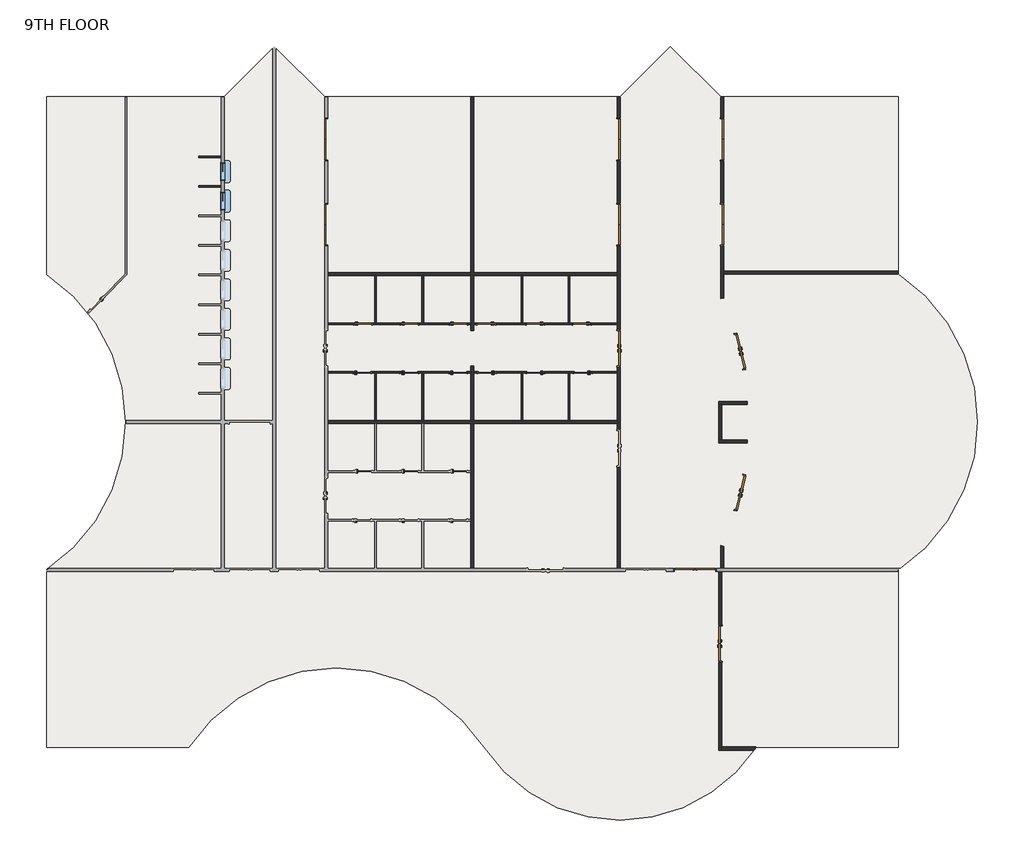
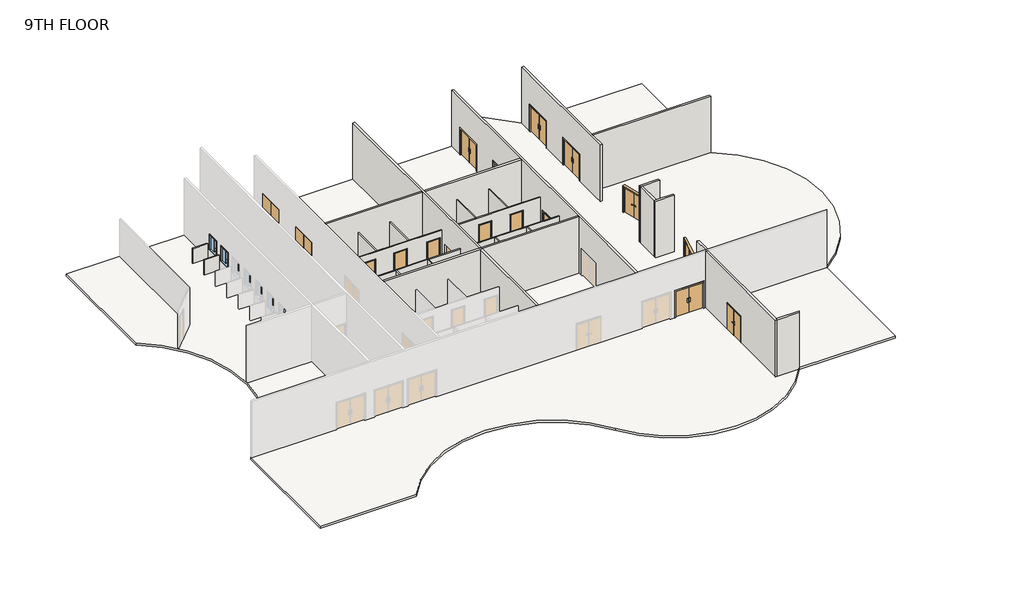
# One storey, part 2 of 2: 26 walls, 23 doors, 2 windows, 1 slab.
"""IFC4 building model written with IfcOpenShell, lengths in millimetres."""

from ifc_helpers import new_model, si_unit, point, frame, frame_2d, origin, place, context, project, spatial, polyline, circle_curve, trimmed, segment, composite_curve, outline, extrude, faceted_brep, transform, mapped, element, save
from ifc_brep_helpers import plane_surface, cylinder_surface, advanced_brep
from components import door_2f250f70, door_df8e76c5, door_0b13e4d9, door_b3a27a16, door_979b1b8c, door_f8b587be, pass_thru_4x3_19d81059

model = new_model("IFC4")

# Units and contexts
model_context = context("Model", 3, world=origin())
ifc_project = project(units=[si_unit("LENGTHUNIT", "METRE", prefix="MILLI")], contexts=[model_context])

# Site, building, storey
site = spatial("IfcSite", under=ifc_project)
building = spatial("IfcBuilding", under=site)
storey = spatial("IfcBuildingStorey", under=building, Name="9TH FLOOR", Elevation=41148.0)

# Doors
placement = place(None, origin())
door_shape = door_2f250f70(model_context)
element("IfcDoor", 1, ObjectType="Door-Passage-Double-Flush : 72\" x 82\"", at=placement, inside=storey, context=model_context, shape_type="MappedRepresentation", body=[
    mapped(door_shape, transform((35885.2621514, 20561.4429091, 41148.0), x_axis=(0.23975975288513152, -0.9708322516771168, 0.0), y_axis=(0.9708322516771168, 0.23975975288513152, 0.0), z_axis=(0.0, 0.0, 1.0))),
])
element("IfcDoor", 2, ObjectType="Door-Passage-Double-Flush : 72\" x 82\"", at=placement, inside=storey, context=model_context, shape_type="MappedRepresentation", body=[
    mapped(door_shape, transform((34887.5089577, 5494.3375, 41148.0), x_axis=(0.0, 1.0, 0.0), y_axis=(-1.0, 0.0, 0.0), z_axis=(0.0, 0.0, 1.0))),
])
door_2_shape = door_df8e76c5(model_context)
element("IfcDoor", 3, ObjectType="Door-Passage-Double-Flush : 72\" x 82\"", at=placement, inside=storey, context=model_context, shape_type="MappedRepresentation", body=[
    mapped(door_2_shape, transform((35886.7385063, 13277.3403388, 41148.0), x_axis=(0.23936619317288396, 0.9709293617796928, 0.0), y_axis=(-0.9709293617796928, 0.23936619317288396, 0.0), z_axis=(0.0, 0.0, 1.0))),
])
element("IfcDoor", 4, ObjectType="Door-Passage-Double-Flush : 72\" x 82\"", at=placement, inside=storey, context=model_context, shape_type="MappedRepresentation", body=[
    mapped(door_2_shape, transform((29628.0650257, 20729.575, 41148.0), x_axis=(0.0, 1.0, 0.0), y_axis=(-1.0, 0.0, 0.0), z_axis=(0.0, 0.0, 1.0))),
])
door_3_shape = door_0b13e4d9(model_context)
element("IfcDoor", 5, ObjectType="Door-Passage-Double-Flush-Dbl_Acting : 84\" x 84\"", at=placement, inside=storey, context=model_context, shape_type="MappedRepresentation", body=[
    mapped(door_3_shape, transform((33564.0300515, 9293.225, 41148.0), x_axis=(-1.0, 0.0, 0.0), y_axis=(0.0, -1.0, 0.0), z_axis=(0.0, 0.0, 1.0))),
])
element("IfcDoor", 6, ObjectType="Door-Passage-Double-Flush-Dbl_Acting : 84\" x 84\"", at=placement, inside=storey, context=model_context, shape_type="MappedRepresentation", body=[
    mapped(door_3_shape, transform((29628.0650257, 31499.175, 41148.0), x_axis=(0.0, 1.0, 0.0), y_axis=(-1.0, 0.0, 0.0), z_axis=(0.0, 0.0, 1.0))),
])
element("IfcDoor", 7, ObjectType="Door-Passage-Double-Flush-Dbl_Acting : 84\" x 84\"", at=placement, inside=storey, context=model_context, shape_type="MappedRepresentation", body=[
    mapped(door_3_shape, transform((29628.0650257, 27101.8, 41148.0), x_axis=(0.0, 1.0, 0.0), y_axis=(-1.0, 0.0, 0.0), z_axis=(0.0, 0.0, 1.0))),
])
door_4_shape = door_b3a27a16(model_context)
element("IfcDoor", 8, ObjectType="Door-Passage-Double-Flush-Dbl_Acting : 84\" x 84\"", at=placement, inside=storey, context=model_context, shape_type="MappedRepresentation", body=[
    mapped(door_4_shape, transform((14556.3400257, 31499.175, 41148.0), x_axis=(0.0, 1.0, 0.0), y_axis=(-1.0, 0.0, 0.0), z_axis=(0.0, 0.0, 1.0))),
])
element("IfcDoor", 9, ObjectType="Door-Passage-Double-Flush-Dbl_Acting : 84\" x 84\"", at=placement, inside=storey, context=model_context, shape_type="MappedRepresentation", body=[
    mapped(door_4_shape, transform((14556.3400257, 27101.8, 41148.0), x_axis=(0.0, 1.0, 0.0), y_axis=(-1.0, 0.0, 0.0), z_axis=(0.0, 0.0, 1.0))),
])
element("IfcDoor", 10, ObjectType="Door-Passage-Double-Flush-Dbl_Acting : 84\" x 84\"", at=placement, inside=storey, context=model_context, shape_type="MappedRepresentation", body=[
    mapped(door_4_shape, transform((34956.2675515, 31499.175, 41148.0), x_axis=(0.0, -1.0, 0.0), y_axis=(1.0, 0.0, 0.0), z_axis=(0.0, 0.0, 1.0))),
])
element("IfcDoor", 11, ObjectType="Door-Passage-Double-Flush-Dbl_Acting : 84\" x 84\"", at=placement, inside=storey, context=model_context, shape_type="MappedRepresentation", body=[
    mapped(door_4_shape, transform((34956.2675515, 27101.8, 41148.0), x_axis=(0.0, -1.0, 0.0), y_axis=(1.0, 0.0, 0.0), z_axis=(0.0, 0.0, 1.0))),
])
door_5_shape = door_979b1b8c(model_context)
element("IfcDoor", 12, ObjectType="Door-Passage-Single-Flush : 36\" x 96\"", at=placement, inside=storey, context=model_context, shape_type="MappedRepresentation", body=[
    mapped(door_5_shape, transform((16456.5775257, 21977.35, 41148.0), x_axis=(1.0, 0.0, 0.0), y_axis=(0.0, 1.0, 0.0), z_axis=(0.0, 0.0, 1.0))),
])
element("IfcDoor", 13, ObjectType="Door-Passage-Single-Flush : 36\" x 96\"", at=placement, inside=storey, context=model_context, shape_type="MappedRepresentation", body=[
    mapped(door_5_shape, transform((18855.2900257, 21977.35, 41148.0), x_axis=(1.0, 0.0, 0.0), y_axis=(0.0, 1.0, 0.0), z_axis=(0.0, 0.0, 1.0))),
])
element("IfcDoor", 14, ObjectType="Door-Passage-Single-Flush : 36\" x 96\"", at=placement, inside=storey, context=model_context, shape_type="MappedRepresentation", body=[
    mapped(door_5_shape, transform((21373.0650257, 21977.35, 41148.0), x_axis=(1.0, 0.0, 0.0), y_axis=(0.0, 1.0, 0.0), z_axis=(0.0, 0.0, 1.0))),
])
element("IfcDoor", 15, ObjectType="Door-Passage-Single-Flush : 36\" x 96\"", at=placement, inside=storey, context=model_context, shape_type="MappedRepresentation", body=[
    mapped(door_5_shape, transform((27778.6275257, 19481.8, 41148.0), x_axis=(-1.0, 0.0, 0.0), y_axis=(0.0, -1.0, 0.0), z_axis=(0.0, 0.0, 1.0))),
])
element("IfcDoor", 16, ObjectType="Door-Passage-Single-Flush : 36\" x 96\"", at=placement, inside=storey, context=model_context, shape_type="MappedRepresentation", body=[
    mapped(door_5_shape, transform((25348.1650257, 19481.8, 41148.0), x_axis=(-1.0, 0.0, 0.0), y_axis=(0.0, -1.0, 0.0), z_axis=(0.0, 0.0, 1.0))),
])
element("IfcDoor", 17, ObjectType="Door-Passage-Single-Flush : 36\" x 96\"", at=placement, inside=storey, context=model_context, shape_type="MappedRepresentation", body=[
    mapped(door_5_shape, transform((22830.3900257, 19481.8, 41148.0), x_axis=(-1.0, 0.0, 0.0), y_axis=(0.0, -1.0, 0.0), z_axis=(0.0, 0.0, 1.0))),
])
door_6_shape = door_f8b587be(model_context)
element("IfcDoor", 18, ObjectType="Door-Passage-Single-Flush : 36\" x 96\"", at=placement, inside=storey, context=model_context, shape_type="MappedRepresentation", body=[
    mapped(door_6_shape, transform((16405.7775257, 19481.8, 41148.0), x_axis=(1.0, 0.0, 0.0), y_axis=(0.0, 1.0, 0.0), z_axis=(0.0, 0.0, 1.0))),
])
element("IfcDoor", 19, ObjectType="Door-Passage-Single-Flush : 36\" x 96\"", at=placement, inside=storey, context=model_context, shape_type="MappedRepresentation", body=[
    mapped(door_6_shape, transform((18836.2400257, 19481.8, 41148.0), x_axis=(1.0, 0.0, 0.0), y_axis=(0.0, 1.0, 0.0), z_axis=(0.0, 0.0, 1.0))),
])
element("IfcDoor", 20, ObjectType="Door-Passage-Single-Flush : 36\" x 96\"", at=placement, inside=storey, context=model_context, shape_type="MappedRepresentation", body=[
    mapped(door_6_shape, transform((21354.0150257, 19481.8, 41148.0), x_axis=(1.0, 0.0, 0.0), y_axis=(0.0, 1.0, 0.0), z_axis=(0.0, 0.0, 1.0))),
])
element("IfcDoor", 21, ObjectType="Door-Passage-Single-Flush : 36\" x 96\"", at=placement, inside=storey, context=model_context, shape_type="MappedRepresentation", body=[
    mapped(door_6_shape, transform((27727.8275257, 21977.35, 41148.0), x_axis=(-1.0, 0.0, 0.0), y_axis=(0.0, -1.0, 0.0), z_axis=(0.0, 0.0, 1.0))),
])
element("IfcDoor", 22, ObjectType="Door-Passage-Single-Flush : 36\" x 96\"", at=placement, inside=storey, context=model_context, shape_type="MappedRepresentation", body=[
    mapped(door_6_shape, transform((25329.1150257, 21977.35, 41148.0), x_axis=(-1.0, 0.0, 0.0), y_axis=(0.0, -1.0, 0.0), z_axis=(0.0, 0.0, 1.0))),
])
element("IfcDoor", 23, ObjectType="Door-Passage-Single-Flush : 36\" x 96\"", at=placement, inside=storey, context=model_context, shape_type="MappedRepresentation", body=[
    mapped(door_6_shape, transform((22811.3400257, 21977.35, 41148.0), x_axis=(-1.0, 0.0, 0.0), y_axis=(0.0, -1.0, 0.0), z_axis=(0.0, 0.0, 1.0))),
])

# Slab
element("IfcSlab", 24, ObjectType="ARCHITECTURAL FINISH FLOOR", at=placement, inside=storey, context=model_context, shape_type="SweptSolid", body=[
    extrude(outline(composite_curve([segment(polyline([(9294.3144878, 33696.275), (11885.8887629, 36287.8492751), (14477.463038, 33696.275), (29706.9420135, 33696.275), (32298.5162886, 36287.8492751), (34890.0905637, 33696.275), (44041.5300515, 33696.275), (44041.5300515, 24546.3877275)]), True, "CONTINUOUS"), segment(trimmed(circle_curve(frame_2d((38974.293871, 16919.575)), 9156.7), [point((44041.5300515, 24546.3877275))], [point((44041.5300515, 9292.7622725))], False, "CARTESIAN"), True, "CONTINUOUS"), segment(polyline([(44041.5300515, 9292.7622725), (44041.5300515, 142.875), (36720.4425102, 142.875)]), True, "CONTINUOUS"), segment(trimmed(circle_curve(frame_2d((29712.2025257, 4799.7966199)), 8414.4130309), [point((36720.4425102, 142.875))], [point((22700.1916667, 148.5548109))], False, "CARTESIAN"), True, "CONTINUOUS"), segment(trimmed(circle_curve(frame_2d((15090.775, -4898.9611805)), 9131.3), [point((22700.1916667, 148.5548109))], [point((7477.593824, 142.875))], True, "CARTESIAN"), True, "CONTINUOUS"), segment(polyline([(7477.593824, 142.875), (142.875, 142.875), (142.875, 9306.393824)]), True, "CONTINUOUS"), segment(trimmed(circle_curve(frame_2d((-4898.9611805, 16919.575)), 9131.3), [point((142.875, 9306.393824))], [point((142.875, 24532.756176))], True, "CARTESIAN"), True, "CONTINUOUS"), segment(polyline([(142.875, 24532.756176), (142.875, 33696.275), (9294.3144878, 33696.275)]), True, "CONTINUOUS")], self_intersect=False)), frame((0.0, 0.0, 40995.6), z_axis=(0.0, 0.0, 1.0), x_axis=(1.0, 0.0, 0.0)), (0.0, 0.0, 1.0), 171.45),
])

# Walls
element("IfcWall", 25, ObjectType="SYR_INT_ONE_HOUR", at=placement, inside=storey, context=model_context, shape_type="SweptSolid", body=[
    extrude(outline(polyline([(17066.1775257, 22023.3875), (17066.1775257, 24461.7875), (17145.5525257, 24461.7875), (17145.5525257, 22023.3875), (17066.1775257, 22023.3875)])), frame((0.0, 0.0, 41148.0), z_axis=(0.0, 0.0, 1.0), x_axis=(1.0, 0.0, 0.0)), (0.0, 0.0, 1.0), 3048.0),
])
element("IfcWall", 26, ObjectType="SYR_INT_ONE_HOUR", at=placement, inside=storey, context=model_context, shape_type="SweptSolid", body=[
    extrude(outline(polyline([(19576.0150257, 19435.7625), (19576.0150257, 16997.3625), (19496.6400257, 16997.3625), (19496.6400257, 19435.7625), (19576.0150257, 19435.7625)])), frame((0.0, 0.0, 41148.0), z_axis=(0.0, 0.0, 1.0), x_axis=(1.0, 0.0, 0.0)), (0.0, 0.0, 1.0), 3048.0),
])
element("IfcWall", 27, ObjectType="SYR_INT_ONE_HOUR", at=placement, inside=storey, context=model_context, shape_type="Brep", body=[
    faceted_brep([(14627.7775257, 22023.3875, 44196.0), (17066.1775257, 22023.3875, 44196.0), (17145.5525257, 22023.3875, 44196.0), (19496.6400257, 22023.3875, 44196.0), (19576.0150257, 22023.3875, 44196.0), (22014.4150257, 22023.3875, 44196.0), (22014.4150257, 22023.3875, 41148.0), (21862.0150257, 22023.3875, 41148.0), (21862.0150257, 22023.3875, 43618.15), (20884.1150257, 22023.3875, 43618.15), (20884.1150257, 22023.3875, 41148.0), (19576.0150257, 22023.3875, 41148.0), (19496.6400257, 22023.3875, 41148.0), (19344.2400257, 22023.3875, 41148.0), (19344.2400257, 22023.3875, 43618.15), (18366.3400257, 22023.3875, 43618.15), (18366.3400257, 22023.3875, 41148.0), (17145.5525257, 22023.3875, 41148.0), (17066.1775257, 22023.3875, 41148.0), (16945.5275257, 22023.3875, 41148.0), (16945.5275257, 22023.3875, 43618.15), (15967.6275257, 22023.3875, 43618.15), (15967.6275257, 22023.3875, 41148.0), (14627.7775257, 22023.3875, 41148.0), (22014.4150257, 21944.0125, 44196.0), (14627.7775257, 21944.0125, 44196.0), (14627.7775257, 21944.0125, 41148.0), (15967.6275257, 21944.0125, 41148.0), (15967.6275257, 21944.0125, 43618.15), (16945.5275257, 21944.0125, 43618.15), (16945.5275257, 21944.0125, 41148.0), (18366.3400257, 21944.0125, 41148.0), (18366.3400257, 21944.0125, 43618.15), (19344.2400257, 21944.0125, 43618.15), (19344.2400257, 21944.0125, 41148.0), (20884.1150257, 21944.0125, 41148.0), (20884.1150257, 21944.0125, 43618.15), (21862.0150257, 21944.0125, 43618.15), (21862.0150257, 21944.0125, 41148.0), (22014.4150257, 21944.0125, 41148.0)], [[[0, 1, 2, 3, 4, 5, 6, 7, 8, 9, 10, 11, 12, 13, 14, 15, 16, 17, 18, 19, 20, 21, 22, 23]], [[24, 25, 26, 27, 28, 29, 30, 31, 32, 33, 34, 35, 36, 37, 38, 39]], [[23, 22, 27, 26]], [[30, 19, 18, 17, 16, 31]], [[34, 13, 12, 11, 10, 35]], [[6, 39, 38, 7]], [[5, 4, 3, 2, 1, 0, 25, 24]], [[29, 20, 19, 30]], [[20, 29, 28, 21]], [[21, 28, 27, 22]], [[14, 13, 34, 33]], [[15, 14, 33, 32]], [[16, 15, 32, 31]], [[37, 8, 7, 38]], [[8, 37, 36, 9]], [[9, 36, 35, 10]], [[0, 23, 26, 25]], [[6, 5, 24, 39]]]),
])
element("IfcWall", 28, ObjectType="SYR_INT_ONE_HOUR", at=placement, inside=storey, context=model_context, shape_type="Brep", body=[
    faceted_brep([(14627.7775257, 19515.1375, 44196.0), (22014.4150257, 19515.1375, 44196.0), (22014.4150257, 19515.1375, 41148.0), (21842.9650257, 19515.1375, 41148.0), (21842.9650257, 19515.1375, 43618.15), (20865.0650257, 19515.1375, 43618.15), (20865.0650257, 19515.1375, 41148.0), (19325.1900257, 19515.1375, 41148.0), (19325.1900257, 19515.1375, 43618.15), (18347.2900257, 19515.1375, 43618.15), (18347.2900257, 19515.1375, 41148.0), (16894.7275257, 19515.1375, 41148.0), (16894.7275257, 19515.1375, 43618.15), (15916.8275257, 19515.1375, 43618.15), (15916.8275257, 19515.1375, 41148.0), (14627.7775257, 19515.1375, 41148.0), (22014.4150257, 19435.7625, 44196.0), (19576.0150257, 19435.7625, 44196.0), (19496.6400257, 19435.7625, 44196.0), (17145.5525257, 19435.7625, 44196.0), (17066.1775257, 19435.7625, 44196.0), (14627.7775257, 19435.7625, 44196.0), (14627.7775257, 19435.7625, 41148.0), (15916.8275257, 19435.7625, 41148.0), (15916.8275257, 19435.7625, 43618.15), (16894.7275257, 19435.7625, 43618.15), (16894.7275257, 19435.7625, 41148.0), (17066.1775257, 19435.7625, 41148.0), (17145.5525257, 19435.7625, 41148.0), (18347.2900257, 19435.7625, 41148.0), (18347.2900257, 19435.7625, 43618.15), (19325.1900257, 19435.7625, 43618.15), (19325.1900257, 19435.7625, 41148.0), (19496.6400257, 19435.7625, 41148.0), (19576.0150257, 19435.7625, 41148.0), (20865.0650257, 19435.7625, 41148.0), (20865.0650257, 19435.7625, 43618.15), (21842.9650257, 19435.7625, 43618.15), (21842.9650257, 19435.7625, 41148.0), (22014.4150257, 19435.7625, 41148.0)], [[[0, 1, 2, 3, 4, 5, 6, 7, 8, 9, 10, 11, 12, 13, 14, 15]], [[16, 17, 18, 19, 20, 21, 22, 23, 24, 25, 26, 27, 28, 29, 30, 31, 32, 33, 34, 35, 36, 37, 38, 39]], [[15, 14, 23, 22]], [[26, 11, 10, 29, 28, 27]], [[32, 7, 6, 35, 34, 33]], [[2, 39, 38, 3]], [[1, 0, 21, 20, 19, 18, 17, 16]], [[25, 12, 11, 26]], [[12, 25, 24, 13]], [[13, 24, 23, 14]], [[31, 8, 7, 32]], [[8, 31, 30, 9]], [[9, 30, 29, 10]], [[37, 4, 3, 38]], [[4, 37, 36, 5]], [[5, 36, 35, 6]], [[0, 15, 22, 21]], [[2, 1, 16, 39]]]),
])
element("IfcWall", 29, ObjectType="SYR_INT_ONE_HOUR", at=placement, inside=storey, context=model_context, shape_type="SweptSolid", body=[
    extrude(outline(polyline([(17066.1775257, 16997.3625), (17066.1775257, 19435.7625), (17145.5525257, 19435.7625), (17145.5525257, 16997.3625), (17066.1775257, 16997.3625)])), frame((0.0, 0.0, 41148.0), z_axis=(0.0, 0.0, 1.0), x_axis=(1.0, 0.0, 0.0)), (0.0, 0.0, 1.0), 3048.0),
])
element("IfcWall", 30, ObjectType="SYR_INT_ONE_HOUR", at=placement, inside=storey, context=model_context, shape_type="SweptSolid", body=[
    extrude(outline(polyline([(19576.0150257, 24461.7875), (19576.0150257, 22023.3875), (19496.6400257, 22023.3875), (19496.6400257, 24461.7875), (19576.0150257, 24461.7875)])), frame((0.0, 0.0, 41148.0), z_axis=(0.0, 0.0, 1.0), x_axis=(1.0, 0.0, 0.0)), (0.0, 0.0, 1.0), 3048.0),
])
element("IfcWall", 31, ObjectType="SYR_INT_ONE_HOUR", at=placement, inside=storey, context=model_context, shape_type="SweptSolid", body=[
    extrude(outline(polyline([(7979.2710938, 29111.575), (9144.0, 29111.575), (9144.0, 29032.2), (7979.2710938, 29032.2), (7979.2710938, 29111.575)])), frame((0.0, 0.0, 41148.0), z_axis=(0.0, 0.0, 1.0), x_axis=(1.0, 0.0, 0.0)), (0.0, 0.0, 1.0), 1219.2),
])
element("IfcWall", 32, ObjectType="SYR_INT_ONE_HOUR", at=placement, inside=storey, context=model_context, shape_type="SweptSolid", body=[
    extrude(outline(polyline([(7979.2710938, 30635.575), (9144.0, 30635.575), (9144.0, 30556.2), (7979.2710938, 30556.2), (7979.2710938, 30635.575)])), frame((0.0, 0.0, 41148.0), z_axis=(0.0, 0.0, 1.0), x_axis=(1.0, 0.0, 0.0)), (0.0, 0.0, 1.0), 1219.2),
])
element("IfcWall", 33, ObjectType="SYR_INT_ONE_HOUR", at=placement, inside=storey, context=model_context, shape_type="SweptSolid", body=[
    extrude(outline(polyline([(27038.8525257, 22023.3875), (27038.8525257, 24461.7875), (27118.2275257, 24461.7875), (27118.2275257, 22023.3875), (27038.8525257, 22023.3875)])), frame((0.0, 0.0, 41148.0), z_axis=(0.0, 0.0, 1.0), x_axis=(1.0, 0.0, 0.0)), (0.0, 0.0, 1.0), 3048.0),
])
element("IfcWall", 34, ObjectType="SYR_INT_ONE_HOUR", at=placement, inside=storey, context=model_context, shape_type="SweptSolid", body=[
    extrude(outline(polyline([(24687.7650257, 19435.7625), (24687.7650257, 16997.3625), (24608.3900257, 16997.3625), (24608.3900257, 19435.7625), (24687.7650257, 19435.7625)])), frame((0.0, 0.0, 41148.0), z_axis=(0.0, 0.0, 1.0), x_axis=(1.0, 0.0, 0.0)), (0.0, 0.0, 1.0), 3048.0),
])
element("IfcWall", 35, ObjectType="SYR_INT_ONE_HOUR", at=placement, inside=storey, context=model_context, shape_type="Brep", body=[
    faceted_brep([(29556.6275257, 21944.0125, 44196.0), (22169.9900257, 21944.0125, 44196.0), (22169.9900257, 21944.0125, 41148.0), (22322.3900257, 21944.0125, 41148.0), (22322.3900257, 21944.0125, 43618.15), (23300.2900257, 21944.0125, 43618.15), (23300.2900257, 21944.0125, 41148.0), (24840.1650257, 21944.0125, 41148.0), (24840.1650257, 21944.0125, 43618.15), (25818.0650257, 21944.0125, 43618.15), (25818.0650257, 21944.0125, 41148.0), (27238.8775257, 21944.0125, 41148.0), (27238.8775257, 21944.0125, 43618.15), (28216.7775257, 21944.0125, 43618.15), (28216.7775257, 21944.0125, 41148.0), (29556.6275257, 21944.0125, 41148.0), (22169.9900257, 22023.3875, 44196.0), (24608.3900257, 22023.3875, 44196.0), (24687.7650257, 22023.3875, 44196.0), (27038.8525257, 22023.3875, 44196.0), (27118.2275257, 22023.3875, 44196.0), (29556.6275257, 22023.3875, 44196.0), (29556.6275257, 22023.3875, 41148.0), (28216.7775257, 22023.3875, 41148.0), (28216.7775257, 22023.3875, 43618.15), (27238.8775257, 22023.3875, 43618.15), (27238.8775257, 22023.3875, 41148.0), (27118.2275257, 22023.3875, 41148.0), (27038.8525257, 22023.3875, 41148.0), (25818.0650257, 22023.3875, 41148.0), (25818.0650257, 22023.3875, 43618.15), (24840.1650257, 22023.3875, 43618.15), (24840.1650257, 22023.3875, 41148.0), (24687.7650257, 22023.3875, 41148.0), (24608.3900257, 22023.3875, 41148.0), (23300.2900257, 22023.3875, 41148.0), (23300.2900257, 22023.3875, 43618.15), (22322.3900257, 22023.3875, 43618.15), (22322.3900257, 22023.3875, 41148.0), (22169.9900257, 22023.3875, 41148.0)], [[[0, 1, 2, 3, 4, 5, 6, 7, 8, 9, 10, 11, 12, 13, 14, 15]], [[16, 17, 18, 19, 20, 21, 22, 23, 24, 25, 26, 27, 28, 29, 30, 31, 32, 33, 34, 35, 36, 37, 38, 39]], [[15, 14, 23, 22]], [[26, 11, 10, 29, 28, 27]], [[32, 7, 6, 35, 34, 33]], [[2, 39, 38, 3]], [[1, 0, 21, 20, 19, 18, 17, 16]], [[25, 12, 11, 26]], [[12, 25, 24, 13]], [[13, 24, 23, 14]], [[8, 7, 32, 31]], [[9, 8, 31, 30]], [[10, 9, 30, 29]], [[37, 4, 3, 38]], [[4, 37, 36, 5]], [[5, 36, 35, 6]], [[0, 15, 22, 21]], [[2, 1, 16, 39]]]),
])
element("IfcWall", 36, ObjectType="SYR_INT_ONE_HOUR", at=placement, inside=storey, context=model_context, shape_type="Brep", body=[
    faceted_brep([(29556.6275257, 19435.7625, 44196.0), (27118.2275257, 19435.7625, 44196.0), (27038.8525257, 19435.7625, 44196.0), (24687.7650257, 19435.7625, 44196.0), (24608.3900257, 19435.7625, 44196.0), (22169.9900257, 19435.7625, 44196.0), (22169.9900257, 19435.7625, 41148.0), (22341.4400257, 19435.7625, 41148.0), (22341.4400257, 19435.7625, 43618.15), (23319.3400257, 19435.7625, 43618.15), (23319.3400257, 19435.7625, 41148.0), (24608.3900257, 19435.7625, 41148.0), (24687.7650257, 19435.7625, 41148.0), (24859.2150257, 19435.7625, 41148.0), (24859.2150257, 19435.7625, 43618.15), (25837.1150257, 19435.7625, 43618.15), (25837.1150257, 19435.7625, 41148.0), (27038.8525257, 19435.7625, 41148.0), (27118.2275257, 19435.7625, 41148.0), (27289.6775257, 19435.7625, 41148.0), (27289.6775257, 19435.7625, 43618.15), (28267.5775257, 19435.7625, 43618.15), (28267.5775257, 19435.7625, 41148.0), (29556.6275257, 19435.7625, 41148.0), (22169.9900257, 19515.1375, 44196.0), (29556.6275257, 19515.1375, 44196.0), (29556.6275257, 19515.1375, 41148.0), (28267.5775257, 19515.1375, 41148.0), (28267.5775257, 19515.1375, 43618.15), (27289.6775257, 19515.1375, 43618.15), (27289.6775257, 19515.1375, 41148.0), (25837.1150257, 19515.1375, 41148.0), (25837.1150257, 19515.1375, 43618.15), (24859.2150257, 19515.1375, 43618.15), (24859.2150257, 19515.1375, 41148.0), (23319.3400257, 19515.1375, 41148.0), (23319.3400257, 19515.1375, 43618.15), (22341.4400257, 19515.1375, 43618.15), (22341.4400257, 19515.1375, 41148.0), (22169.9900257, 19515.1375, 41148.0)], [[[0, 1, 2, 3, 4, 5, 6, 7, 8, 9, 10, 11, 12, 13, 14, 15, 16, 17, 18, 19, 20, 21, 22, 23]], [[24, 25, 26, 27, 28, 29, 30, 31, 32, 33, 34, 35, 36, 37, 38, 39]], [[23, 22, 27, 26]], [[30, 19, 18, 17, 16, 31]], [[34, 13, 12, 11, 10, 35]], [[6, 39, 38, 7]], [[5, 4, 3, 2, 1, 0, 25, 24]], [[29, 20, 19, 30]], [[20, 29, 28, 21]], [[21, 28, 27, 22]], [[33, 14, 13, 34]], [[14, 33, 32, 15]], [[15, 32, 31, 16]], [[37, 8, 7, 38]], [[8, 37, 36, 9]], [[9, 36, 35, 10]], [[0, 23, 26, 25]], [[6, 5, 24, 39]]]),
])
element("IfcWall", 37, ObjectType="SYR_INT_ONE_HOUR", at=placement, inside=storey, context=model_context, shape_type="SweptSolid", body=[
    extrude(outline(polyline([(27038.8525257, 16997.3625), (27038.8525257, 19435.7625), (27118.2275257, 19435.7625), (27118.2275257, 16997.3625), (27038.8525257, 16997.3625)])), frame((0.0, 0.0, 41148.0), z_axis=(0.0, 0.0, 1.0), x_axis=(1.0, 0.0, 0.0)), (0.0, 0.0, 1.0), 3048.0),
])
element("IfcWall", 38, ObjectType="SYR_INT_ONE_HOUR", at=placement, inside=storey, context=model_context, shape_type="SweptSolid", body=[
    extrude(outline(polyline([(24687.7650257, 24461.7875), (24687.7650257, 22023.3875), (24608.3900257, 22023.3875), (24608.3900257, 24461.7875), (24687.7650257, 24461.7875)])), frame((0.0, 0.0, 41148.0), z_axis=(0.0, 0.0, 1.0), x_axis=(1.0, 0.0, 0.0)), (0.0, 0.0, 1.0), 3048.0),
])
element("IfcWall", 39, ObjectType="SYR_INT_TWO_HOUR", at=placement, inside=storey, context=model_context, shape_type="Brep", body=[
    faceted_brep([(34803.3714577, 0.0, 45720.0), (34803.3714577, 9221.7875, 45720.0), (34803.3714577, 9221.7875, 41148.0), (34803.3714577, 6459.5375, 41148.0), (34803.3714577, 6459.5375, 43332.4), (34803.3714577, 4529.1375, 43332.4), (34803.3714577, 4529.1375, 41148.0), (34803.3714577, 0.0, 41148.0), (34958.9464577, 9221.7875, 45720.0), (34958.9464577, 155.575, 45720.0), (34958.9464577, 0.0, 45720.0), (34958.9464577, 0.0, 41148.0), (34958.9464577, 155.575, 41148.0), (34958.9464577, 4529.1375, 41148.0), (34958.9464577, 4529.1375, 43332.4), (34958.9464577, 6459.5375, 43332.4), (34958.9464577, 6459.5375, 41148.0), (34958.9464577, 9221.7875, 41148.0)], [[[0, 1, 2, 3, 4, 5, 6, 7]], [[8, 9, 10, 11, 12, 13, 14, 15, 16, 17]], [[2, 17, 16, 3]], [[11, 7, 6, 13, 12]], [[1, 0, 10, 9, 8]], [[2, 1, 8, 17]], [[0, 7, 11, 10]], [[15, 4, 3, 16]], [[4, 15, 14, 5]], [[5, 14, 13, 6]]]),
])
element("IfcWall", 40, ObjectType="SYR_INT_TWO_HOUR", at=placement, inside=storey, context=model_context, shape_type="SweptSolid", body=[
    extrude(outline(composite_curve([segment(polyline([(36607.9065696, 0.0), (34958.9464577, 0.0), (34958.9464577, 155.575), (36713.6300515, 155.575)]), True, "CONTINUOUS"), segment(trimmed(circle_curve(frame_2d((29712.2025257, 4799.7966199)), 8401.7130309), [point((36713.6300515, 155.575))], [point((36607.9065696, 0.0))], False, "CARTESIAN"), True, "CONTINUOUS")], self_intersect=False)), frame((0.0, 0.0, 41148.0), z_axis=(0.0, 0.0, 1.0), x_axis=(1.0, 0.0, 0.0)), (0.0, 0.0, 1.0), 4572.0),
])
element("IfcWall", 41, ObjectType="SYR_INT_TWO_HOUR", at=placement, inside=storey, context=model_context, shape_type="Brep", body=[
    faceted_brep([(29556.6275257, 9377.3625, 45720.0), (29556.6275257, 16841.7875, 45720.0), (29556.6275257, 16997.3625, 45720.0), (29556.6275257, 24461.7875, 45720.0), (29556.6275257, 24617.3625, 45720.0), (29556.6275257, 33683.575, 45720.0), (29556.6275257, 33683.575, 41148.0), (29556.6275257, 32616.775, 41148.0), (29556.6275257, 32616.775, 43383.2), (29556.6275257, 30381.575, 43383.2), (29556.6275257, 30381.575, 41148.0), (29556.6275257, 28219.4, 41148.0), (29556.6275257, 28219.4, 43383.2), (29556.6275257, 25984.2, 43383.2), (29556.6275257, 25984.2, 41148.0), (29556.6275257, 24617.3625, 41148.0), (29556.6275257, 24461.7875, 41148.0), (29556.6275257, 22023.3875, 41148.0), (29556.6275257, 21944.0125, 41148.0), (29556.6275257, 21694.775, 41148.0), (29556.6275257, 21694.775, 43332.4), (29556.6275257, 19764.375, 43332.4), (29556.6275257, 19764.375, 41148.0), (29556.6275257, 19515.1375, 41148.0), (29556.6275257, 19435.7625, 41148.0), (29556.6275257, 16997.3625, 41148.0), (29556.6275257, 16841.7875, 41148.0), (29556.6275257, 16536.9875, 41148.0), (29556.6275257, 16536.9875, 43332.4), (29556.6275257, 14606.5875, 43332.4), (29556.6275257, 14606.5875, 41148.0), (29556.6275257, 9377.3625, 41148.0), (29712.2025257, 33683.575, 45720.0), (29712.2025257, 9377.3625, 45720.0), (29712.2025257, 9377.3625, 41148.0), (29712.2025257, 14606.5875, 41148.0), (29712.2025257, 14606.5875, 43332.4), (29712.2025257, 16536.9875, 43332.4), (29712.2025257, 16536.9875, 41148.0), (29712.2025257, 19764.375, 41148.0), (29712.2025257, 19764.375, 43332.4), (29712.2025257, 21694.775, 43332.4), (29712.2025257, 21694.775, 41148.0), (29712.2025257, 25984.2, 41148.0), (29712.2025257, 25984.2, 43383.2), (29712.2025257, 28219.4, 43383.2), (29712.2025257, 28219.4, 41148.0), (29712.2025257, 30381.575, 41148.0), (29712.2025257, 30381.575, 43383.2), (29712.2025257, 32616.775, 43383.2), (29712.2025257, 32616.775, 41148.0), (29712.2025257, 33683.575, 41148.0)], [[[0, 1, 2, 3, 4, 5, 6, 7, 8, 9, 10, 11, 12, 13, 14, 15, 16, 17, 18, 19, 20, 21, 22, 23, 24, 25, 26, 27, 28, 29, 30, 31]], [[32, 33, 34, 35, 36, 37, 38, 39, 40, 41, 42, 43, 44, 45, 46, 47, 48, 49, 50, 51]], [[34, 31, 30, 35]], [[42, 19, 18, 17, 16, 15, 14, 43]], [[22, 39, 38, 27, 26, 25, 24, 23]], [[46, 11, 10, 47]], [[7, 6, 51, 50]], [[5, 4, 3, 2, 1, 0, 33, 32]], [[0, 31, 34, 33]], [[41, 20, 19, 42]], [[20, 41, 40, 21]], [[21, 40, 39, 22]], [[45, 12, 11, 46]], [[12, 45, 44, 13]], [[13, 44, 43, 14]], [[49, 8, 7, 50]], [[8, 49, 48, 9]], [[9, 48, 47, 10]], [[29, 36, 35, 30]], [[36, 29, 28, 37]], [[37, 28, 27, 38]], [[6, 5, 32, 51]]]),
])
element("IfcWall", 42, ObjectType="SYR_INT_TWO_HOUR", at=placement, inside=storey, context=model_context, shape_type="Brep", body=[
    faceted_brep([(34884.8300515, 23286.7810764, 45720.0), (34884.8300515, 33683.575, 45720.0), (34884.8300515, 33683.575, 41148.0), (34884.8300515, 32616.775, 41148.0), (34884.8300515, 32616.775, 43383.2), (34884.8300515, 30381.575, 43383.2), (34884.8300515, 30381.575, 41148.0), (34884.8300515, 28219.4, 41148.0), (34884.8300515, 28219.4, 43383.2), (34884.8300515, 25984.2, 43383.2), (34884.8300515, 25984.2, 41148.0), (34884.8300515, 23286.7810764, 41148.0), (35040.4050515, 33683.575, 45720.0), (35040.4050515, 24695.15, 45720.0), (35040.4050515, 24539.575, 45720.0), (35040.4050515, 23320.9573614, 45720.0), (35040.4050515, 23320.9573614, 41148.0), (35040.4050515, 24539.575, 41148.0), (35040.4050515, 24695.15, 41148.0), (35040.4050515, 25984.2, 41148.0), (35040.4050515, 25984.2, 43383.2), (35040.4050515, 28219.4, 43383.2), (35040.4050515, 28219.4, 41148.0), (35040.4050515, 30381.575, 41148.0), (35040.4050515, 30381.575, 43383.2), (35040.4050515, 32616.775, 43383.2), (35040.4050515, 32616.775, 41148.0), (35040.4050515, 33683.575, 41148.0)], [[[0, 1, 2, 3, 4, 5, 6, 7, 8, 9, 10, 11]], [[12, 13, 14, 15, 16, 17, 18, 19, 20, 21, 22, 23, 24, 25, 26, 27]], [[16, 11, 10, 19, 18, 17]], [[3, 2, 27, 26]], [[6, 23, 22, 7]], [[1, 0, 15, 14, 13, 12]], [[0, 11, 16, 15]], [[5, 24, 23, 6]], [[24, 5, 4, 25]], [[25, 4, 3, 26]], [[9, 20, 19, 10]], [[20, 9, 8, 21]], [[21, 8, 7, 22]], [[2, 1, 12, 27]]]),
])
element("IfcWall", 43, ObjectType="SYR_INT_TWO_HOUR", at=placement, inside=storey, context=model_context, shape_type="Brep", body=[
    faceted_brep([(14627.7775257, 16841.7875, 41148.0), (17066.1775257, 16841.7875, 41148.0), (17145.5525257, 16841.7875, 41148.0), (19496.6400257, 16841.7875, 41148.0), (19576.0150257, 16841.7875, 41148.0), (22014.4150257, 16841.7875, 41148.0), (22169.9900257, 16841.7875, 41148.0), (29556.6275257, 16841.7875, 41148.0), (29556.6275257, 16841.7875, 45720.0), (22169.9900257, 16841.7875, 45720.0), (22014.4150257, 16841.7875, 45720.0), (14627.7775257, 16841.7875, 45720.0), (14627.7775257, 16997.3625, 41148.0), (14627.7775257, 16997.3625, 45720.0), (22014.4150257, 16997.3625, 45720.0), (22169.9900257, 16997.3625, 45720.0), (29556.6275257, 16997.3625, 45720.0), (29556.6275257, 16997.3625, 41148.0), (27118.2275257, 16997.3625, 41148.0), (27038.8525257, 16997.3625, 41148.0), (24687.7650257, 16997.3625, 41148.0), (24608.3900257, 16997.3625, 41148.0), (22169.9900257, 16997.3625, 41148.0), (22014.4150257, 16997.3625, 41148.0), (19576.0150257, 16997.3625, 41148.0), (19496.6400257, 16997.3625, 41148.0), (17145.5525257, 16997.3625, 41148.0), (17066.1775257, 16997.3625, 41148.0)], [[[0, 1, 2, 3, 4, 5, 6, 7, 8, 9, 10, 11]], [[12, 13, 14, 15, 16, 17, 18, 19, 20, 21, 22, 23, 24, 25, 26, 27]], [[7, 6, 5, 4, 3, 2, 1, 0, 12, 27, 26, 25, 24, 23, 22, 21, 20, 19, 18, 17]], [[11, 10, 9, 8, 16, 15, 14, 13]], [[0, 11, 13, 12]], [[8, 7, 17, 16]]]),
])
element("IfcWall", 44, ObjectType="SYR_INT_TWO_HOUR", at=placement, inside=storey, context=model_context, shape_type="Brep", body=[
    faceted_brep([(22169.9900257, 9377.3625, 45720.0), (22169.9900257, 9377.3625, 41148.0), (22169.9900257, 16841.7875, 41148.0), (22169.9900257, 16841.7875, 45720.0), (22014.4150257, 9377.3625, 41148.0), (22014.4150257, 9377.3625, 45720.0), (22014.4150257, 16841.7875, 45720.0), (22014.4150257, 16841.7875, 41148.0), (22014.4150257, 14403.3875, 41148.0), (22014.4150257, 14324.0125, 41148.0), (22014.4150257, 11895.1375, 41148.0), (22014.4150257, 11815.7625, 41148.0)], [[[0, 1, 2, 3]], [[4, 5, 6, 7, 8, 9, 10, 11]], [[1, 4, 11, 10, 9, 8, 7, 2]], [[5, 0, 3, 6]], [[1, 0, 5, 4]], [[3, 2, 7, 6]]]),
    faceted_brep([(22169.9900257, 19815.175, 41148.0), (22169.9900257, 19815.175, 43281.6), (22169.9900257, 21643.975, 43281.6), (22169.9900257, 21643.975, 41148.0), (22169.9900257, 21944.0125, 41148.0), (22169.9900257, 22023.3875, 41148.0), (22169.9900257, 24461.7875, 41148.0), (22169.9900257, 24617.3625, 41148.0), (22169.9900257, 33683.575, 41148.0), (22169.9900257, 33683.575, 45720.0), (22169.9900257, 24617.3625, 45720.0), (22169.9900257, 24461.7875, 45720.0), (22169.9900257, 16997.3625, 45720.0), (22169.9900257, 16997.3625, 41148.0), (22169.9900257, 19435.7625, 41148.0), (22169.9900257, 19515.1375, 41148.0), (22014.4150257, 19815.175, 43281.6), (22014.4150257, 19815.175, 41148.0), (22014.4150257, 19515.1375, 41148.0), (22014.4150257, 19435.7625, 41148.0), (22014.4150257, 16997.3625, 41148.0), (22014.4150257, 16997.3625, 45720.0), (22014.4150257, 24461.7875, 45720.0), (22014.4150257, 24617.3625, 45720.0), (22014.4150257, 33683.575, 45720.0), (22014.4150257, 33683.575, 41148.0), (22014.4150257, 24617.3625, 41148.0), (22014.4150257, 24461.7875, 41148.0), (22014.4150257, 22023.3875, 41148.0), (22014.4150257, 21944.0125, 41148.0), (22014.4150257, 21643.975, 41148.0), (22014.4150257, 21643.975, 43281.6)], [[[0, 1, 2, 3, 4, 5, 6, 7, 8, 9, 10, 11, 12, 13, 14, 15]], [[16, 17, 18, 19, 20, 21, 22, 23, 24, 25, 26, 27, 28, 29, 30, 31]], [[17, 0, 15, 14, 13, 20, 19, 18]], [[3, 30, 29, 28, 27, 26, 25, 8, 7, 6, 5, 4]], [[9, 24, 23, 22, 21, 12, 11, 10]], [[13, 12, 21, 20]], [[17, 16, 1, 0]], [[31, 30, 3, 2]], [[16, 31, 2, 1]], [[9, 8, 25, 24]]]),
])
element("IfcWall", 45, ObjectType="SYR_INT_TWO_HOUR", at=placement, inside=storey, context=model_context, shape_type="Brep", body=[
    faceted_brep([(14627.7775257, 24461.7875, 45720.0), (14627.7775257, 24461.7875, 41148.0), (17066.1775257, 24461.7875, 41148.0), (17145.5525257, 24461.7875, 41148.0), (19496.6400257, 24461.7875, 41148.0), (19576.0150257, 24461.7875, 41148.0), (22014.4150257, 24461.7875, 41148.0), (22014.4150257, 24461.7875, 45720.0), (14627.7775257, 24617.3625, 41148.0), (14627.7775257, 24617.3625, 45720.0), (22014.4150257, 24617.3625, 45720.0), (22014.4150257, 24617.3625, 41148.0)], [[[0, 1, 2, 3, 4, 5, 6, 7]], [[8, 9, 10, 11]], [[1, 8, 11, 6, 5, 4, 3, 2]], [[9, 0, 7, 10]], [[1, 0, 9, 8]], [[7, 6, 11, 10]]]),
    faceted_brep([(29556.6275257, 24461.7875, 41148.0), (29556.6275257, 24461.7875, 45720.0), (22169.9900257, 24461.7875, 45720.0), (22169.9900257, 24461.7875, 41148.0), (24608.3900257, 24461.7875, 41148.0), (24687.7650257, 24461.7875, 41148.0), (27038.8525257, 24461.7875, 41148.0), (27118.2275257, 24461.7875, 41148.0), (29556.6275257, 24617.3625, 45720.0), (29556.6275257, 24617.3625, 41148.0), (22169.9900257, 24617.3625, 41148.0), (22169.9900257, 24617.3625, 45720.0)], [[[0, 1, 2, 3, 4, 5, 6, 7]], [[8, 9, 10, 11]], [[9, 0, 7, 6, 5, 4, 3, 10]], [[1, 8, 11, 2]], [[1, 0, 9, 8]], [[3, 2, 11, 10]]]),
])
element("IfcWall", 46, ObjectType="SYR_INT_TWO_HOUR", at=placement, inside=storey, context=model_context, shape_type="SweptSolid", body=[
    extrude(outline(polyline([(35040.4050515, 24695.15), (44028.8300515, 24695.15), (44028.8300515, 24539.575), (35040.4050515, 24539.575), (35040.4050515, 24695.15)])), frame((0.0, 0.0, 41148.0), z_axis=(0.0, 0.0, 1.0), x_axis=(1.0, 0.0, 0.0)), (0.0, 0.0, 1.0), 4572.0),
])
element("IfcWall", 47, ObjectType="SYR_INT_TWO_HOUR", at=placement, inside=storey, context=model_context, shape_type="SweptSolid", body=[
    extrude(outline(polyline([(34884.8300515, 9377.3625), (34884.8300515, 10546.0189236), (35040.4050515, 10511.8426386), (35040.4050515, 9377.3625), (34884.8300515, 9377.3625)])), frame((0.0, 0.0, 41148.0), z_axis=(0.0, 0.0, 1.0), x_axis=(1.0, 0.0, 0.0)), (0.0, 0.0, 1.0), 4572.0),
])
element("IfcWall", 48, ObjectType="SYR_INT_TWO_HOUR", at=placement, inside=storey, context=model_context, shape_type="AdvancedBrep", body=[
    advanced_brep(
    [(36260.4137436, 16002.0, 41148.0), (34939.3011452, 16002.0, 41148.0), (34783.7261452, 16002.0, 41148.0), (34783.7261452, 16002.0, 45720.0), (34939.3011452, 16002.0, 45720.0), (36260.4137436, 16002.0, 45720.0), (36250.2111967, 15846.425, 41148.0), (36250.2111967, 15846.425, 45720.0), (34783.7261452, 15846.425, 45720.0), (34783.7261452, 15846.425, 41148.0)],
    [
        (0, 1),
        (1, 2),
        (2, 3),
        (3, 4),
        (4, 5),
        (5, 0),
        (6, 7),
        (7, 8),
        (8, 9),
        (9, 6),
        (0, 6, circle_curve(frame((21125.7990959, 16916.4, 41148.0), z_axis=(0.0, 0.0, -1.0), x_axis=(1.0, 0.0, 0.0)), 15162.2125)),
        (9, 2),
        (3, 8),
        (7, 5, circle_curve(frame((21125.7990959, 16916.4, 45720.0), z_axis=(0.0, 0.0, 1.0), x_axis=(1.0, 0.0, 0.0)), 15162.2125)),
    ],
    [
        plane_surface(frame((36365.7990959, 16002.0, 41148.0), z_axis=(0.0, 1.0, 0.0), x_axis=(-1.0, 0.0, 0.0))),
        plane_surface(frame((36365.7990959, 15846.425, 41148.0), z_axis=(0.0, -1.0, 0.0), x_axis=(1.0, 0.0, 0.0))),
        plane_surface(frame((36333.467029, 16002.0, 41148.0), z_axis=(0.0, 0.0, -1.0), x_axis=(0.0, -1.0, 0.0))),
        plane_surface(frame((34861.5136452, 16002.0, 45720.0), z_axis=(0.0, 0.0, 1.0), x_axis=(0.0, -1.0, 0.0))),
        cylinder_surface(frame((21125.7990959, 16916.4, 41148.0), z_axis=(0.0, 0.0, -1.0), x_axis=(1.0, 0.0, 0.0)), 15162.2125),
        plane_surface(frame((34783.7261452, 17087.0102762, 41148.0), z_axis=(-1.0, 0.0, 0.0), x_axis=(0.0, -1.0, 0.0))),
    ],
    [
        (0, [[1, 2, 3, 4, 5, 6]]),
        (1, [[7, 8, 9, 10]]),
        (2, [[-2, -1, 11, -10, 12]]),
        (3, [[-5, -4, 13, -8, 14]]),
        (4, [[-6, -14, -7, -11]]),
        (5, [[-3, -12, -9, -13]]),
    ],
),
])
element("IfcWall", 49, ObjectType="SYR_INT_TWO_HOUR", at=placement, inside=storey, context=model_context, shape_type="AdvancedBrep", body=[
    advanced_brep(
    [(34783.7261452, 17830.8, 41148.0), (34939.3011452, 17830.8, 41148.0), (36260.4137436, 17830.8, 41148.0), (36260.4137436, 17830.8, 45720.0), (34939.3011452, 17830.8, 45720.0), (34783.7261452, 17830.8, 45720.0), (34783.7261452, 17986.375, 41148.0), (34783.7261452, 17986.375, 45720.0), (36250.2111967, 17986.375, 45720.0), (36250.2111967, 17986.375, 41148.0)],
    [
        (0, 1),
        (1, 2),
        (2, 3),
        (3, 4),
        (4, 5),
        (5, 0),
        (6, 7),
        (7, 8),
        (8, 9),
        (9, 6),
        (0, 6),
        (9, 2, circle_curve(frame((21125.7990959, 16916.4, 41148.0), z_axis=(0.0, 0.0, -1.0), x_axis=(1.0, 0.0, 0.0)), 15162.2125)),
        (3, 8, circle_curve(frame((21125.7990959, 16916.4, 45720.0), z_axis=(0.0, 0.0, 1.0), x_axis=(1.0, 0.0, 0.0)), 15162.2125)),
        (7, 5),
    ],
    [
        plane_surface(frame((34892.5990959, 17830.8, 41148.0), z_axis=(0.0, -1.0, 0.0), x_axis=(1.0, 0.0, 0.0))),
        plane_surface(frame((34892.5990959, 17986.375, 41148.0), z_axis=(0.0, 1.0, 0.0), x_axis=(-1.0, 0.0, 0.0))),
        plane_surface(frame((34861.5136452, 17830.8, 41148.0), z_axis=(0.0, 0.0, -1.0), x_axis=(0.0, 1.0, 0.0))),
        plane_surface(frame((36333.467029, 17830.8, 45720.0), z_axis=(0.0, 0.0, 1.0), x_axis=(0.0, 1.0, 0.0))),
        cylinder_surface(frame((21125.7990959, 16916.4, 41148.0), z_axis=(0.0, 0.0, -1.0), x_axis=(1.0, 0.0, 0.0)), 15162.2125),
        plane_surface(frame((34783.7261452, 17087.0102762, 41148.0), z_axis=(-1.0, 0.0, 0.0), x_axis=(0.0, -1.0, 0.0))),
    ],
    [
        (0, [[1, 2, 3, 4, 5, 6]]),
        (1, [[7, 8, 9, 10]]),
        (2, [[-2, -1, 11, -10, 12]]),
        (3, [[-5, -4, 13, -8, 14]]),
        (4, [[-3, -12, -9, -13]]),
        (5, [[-6, -14, -7, -11]]),
    ],
),
])
element("IfcWall", 50, ObjectType="SYR_INT_TWO_HOUR", at=placement, inside=storey, context=model_context, shape_type="SweptSolid", body=[
    extrude(outline(polyline([(34939.3011452, 17830.8), (34939.3011452, 16002.0), (34783.7261452, 16002.0), (34783.7261452, 17830.8), (34939.3011452, 17830.8)])), frame((0.0, 0.0, 41148.0), z_axis=(0.0, 0.0, 1.0), x_axis=(1.0, 0.0, 0.0)), (0.0, 0.0, 1.0), 4572.0),
])

# Windows
pass_thru_4x3_shape = pass_thru_4x3_19d81059(model_context)
element("IfcWindow", 51, ObjectType="Pass thru : 4x3", at=placement, inside=storey, context=model_context, shape_type="MappedRepresentation", body=[
    mapped(pass_thru_4x3_shape, transform((9221.7875, 28309.8875, 41148.0), x_axis=(0.0, 1.0, 0.0), y_axis=(-1.0, 0.0, 0.0), z_axis=(0.0, 0.0, 1.0))),
])
element("IfcWindow", 52, ObjectType="Pass thru : 4x3", at=placement, inside=storey, context=model_context, shape_type="MappedRepresentation", body=[
    mapped(pass_thru_4x3_shape, transform((9221.7875, 29833.8875, 41148.0), x_axis=(0.0, 1.0, 0.0), y_axis=(-1.0, 0.0, 0.0), z_axis=(0.0, 0.0, 1.0))),
])

save(model, "model.ifc")
